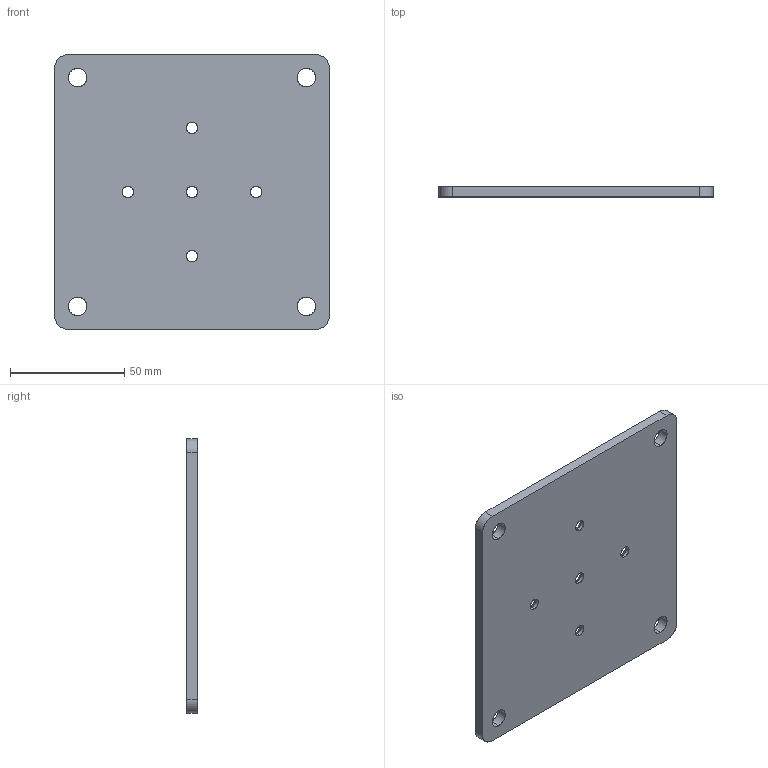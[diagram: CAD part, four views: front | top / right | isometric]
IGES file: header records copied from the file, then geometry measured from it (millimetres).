
Start section: SolidWorks IGES file using analytic representation for surfaces
Bounding box: 120 x 4.5 x 120 mm (x, y, z)
Surface area: 30979.7 mm2 (no closed solid volume)
Topology: 0 solids, 0 shells, 38 faces, 792 edges, 792 vertices
Faces by surface type: revolution 32, bspline 6
